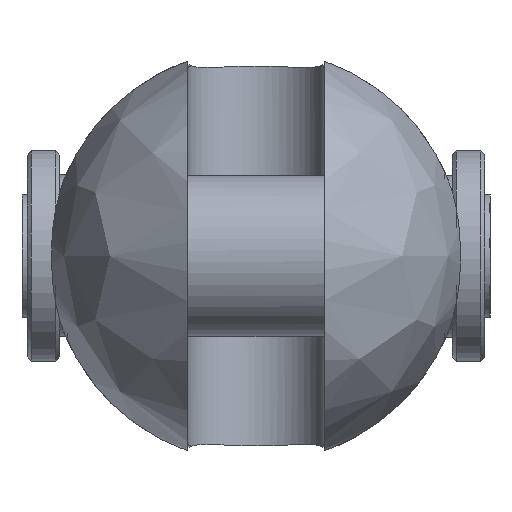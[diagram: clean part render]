
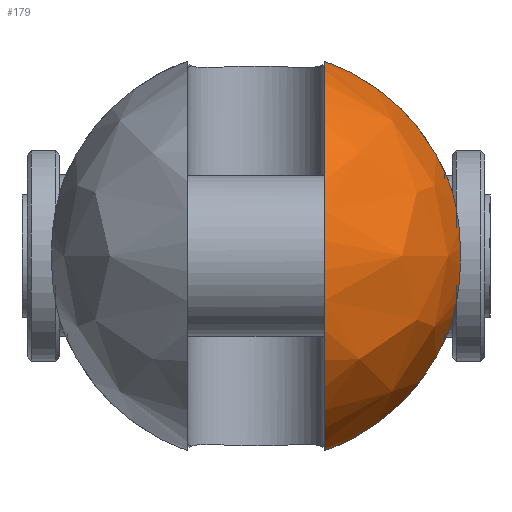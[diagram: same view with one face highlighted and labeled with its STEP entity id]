
A CAD part, left-side view. The second image highlights one B-rep face of the part: STEP entity #179.
In plain terms, the highlighted free-form (B-spline) face has degree [2, 2] with [9, 5] control points.
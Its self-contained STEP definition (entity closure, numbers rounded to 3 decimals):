
#179=ADVANCED_FACE('',(#321),#2442,.T.);
#321=FACE_OUTER_BOUND('',#482,.T.);
#482=EDGE_LOOP('',(#1205,#1206,#1207,#1208));
#1205=ORIENTED_EDGE('',*,*,#1595,.T.);
#1206=ORIENTED_EDGE('',*,*,#1616,.F.);
#1207=ORIENTED_EDGE('',*,*,#1625,.T.);
#1208=ORIENTED_EDGE('',*,*,#1611,.F.);
#1595=EDGE_CURVE('',#2273,#2272,#2004,.T.);
#1611=EDGE_CURVE('',#2273,#2285,#2014,.T.);
#1616=EDGE_CURVE('',#2292,#2272,#2015,.T.);
#1625=EDGE_CURVE('',#2292,#2285,#1801,.T.);
#1801=B_SPLINE_CURVE_WITH_KNOTS('',3,(#6053,#6054,#6055,#6056,#6057,#6058,
#6059,#6060,#6061,#6062,#6063,#6064,#6065,#6066),.UNSPECIFIED.,.F.,.F.,
(4,2,2,2,2,2,4),(0.,2.715,6.504,10.293,14.082,
17.871,20.587),.UNSPECIFIED.);
#2004=(
BOUNDED_CURVE()
B_SPLINE_CURVE(2,(#5937,#5938,#5939,#5940,#5941),.UNSPECIFIED.,.F.,.F.)
B_SPLINE_CURVE_WITH_KNOTS((3,2,3),(-75.529,-37.765,
0.),.UNSPECIFIED.)
CURVE()
GEOMETRIC_REPRESENTATION_ITEM()
RATIONAL_B_SPLINE_CURVE((1.,0.707,1.,0.707,1.))
REPRESENTATION_ITEM('')
);
#2014=(
BOUNDED_CURVE()
B_SPLINE_CURVE(2,(#6015,#6016,#6017),.UNSPECIFIED.,.F.,.F.)
B_SPLINE_CURVE_WITH_KNOTS((3,3),(0.,21.913),.UNSPECIFIED.)
CURVE()
GEOMETRIC_REPRESENTATION_ITEM()
RATIONAL_B_SPLINE_CURVE((1.,0.909,1.))
REPRESENTATION_ITEM('')
);
#2015=(
BOUNDED_CURVE()
B_SPLINE_CURVE(2,(#6026,#6027,#6028),.UNSPECIFIED.,.F.,.F.)
B_SPLINE_CURVE_WITH_KNOTS((3,3),(0.,21.913),.UNSPECIFIED.)
CURVE()
GEOMETRIC_REPRESENTATION_ITEM()
RATIONAL_B_SPLINE_CURVE((1.,0.909,1.))
REPRESENTATION_ITEM('')
);
#2272=VERTEX_POINT('',#5805);
#2273=VERTEX_POINT('',#5806);
#2285=VERTEX_POINT('',#5818);
#2292=VERTEX_POINT('',#5825);
#2442=(
BOUNDED_SURFACE()
B_SPLINE_SURFACE(2,2,((#5519,#5520,#5521,#5522,#5523),(#5524,#5525,#5526,
#5527,#5528),(#5529,#5530,#5531,#5532,#5533),(#5534,#5535,#5536,#5537,#5538),
(#5539,#5540,#5541,#5542,#5543),(#5544,#5545,#5546,#5547,#5548),(#5549,
#5550,#5551,#5552,#5553),(#5554,#5555,#5556,#5557,#5558),(#5559,#5560,#5561,
#5562,#5563)),.UNSPECIFIED.,.T.,.F.,.F.)
B_SPLINE_SURFACE_WITH_KNOTS((3,2,2,2,3),(3,2,3),(0.,40.055,80.111,
120.166,160.221),(0.,40.055,80.111),
 .UNSPECIFIED.)
GEOMETRIC_REPRESENTATION_ITEM()
RATIONAL_B_SPLINE_SURFACE(((1.,0.707,1.,0.707,1.),
(0.707,0.5,0.707,0.5,0.707),(1.,0.707,
1.,0.707,1.),(0.707,0.5,0.707,0.5,0.707),
(1.,0.707,1.,0.707,1.),(0.707,0.5,0.707,
0.5,0.707),(1.,0.707,1.,0.707,1.),(0.707,
0.5,0.707,0.5,0.707),(1.,0.707,1.,0.707,
1.)))
REPRESENTATION_ITEM('')
SURFACE()
);
#5519=CARTESIAN_POINT('',(-36.,0.,0.));
#5520=CARTESIAN_POINT('',(-36.,25.5,0.));
#5521=CARTESIAN_POINT('',(-10.5,25.5,0.));
#5522=CARTESIAN_POINT('',(15.,25.5,0.));
#5523=CARTESIAN_POINT('',(15.,0.,0.));
#5524=CARTESIAN_POINT('',(-36.,0.,0.));
#5525=CARTESIAN_POINT('',(-36.,25.5,25.5));
#5526=CARTESIAN_POINT('',(-10.5,25.5,25.5));
#5527=CARTESIAN_POINT('',(15.,25.5,25.5));
#5528=CARTESIAN_POINT('',(15.,0.,0.));
#5529=CARTESIAN_POINT('',(-36.,0.,0.));
#5530=CARTESIAN_POINT('',(-36.,0.,25.5));
#5531=CARTESIAN_POINT('',(-10.5,0.,25.5));
#5532=CARTESIAN_POINT('',(15.,0.,25.5));
#5533=CARTESIAN_POINT('',(15.,0.,0.));
#5534=CARTESIAN_POINT('',(-36.,0.,0.));
#5535=CARTESIAN_POINT('',(-36.,-25.5,25.5));
#5536=CARTESIAN_POINT('',(-10.5,-25.5,25.5));
#5537=CARTESIAN_POINT('',(15.,-25.5,25.5));
#5538=CARTESIAN_POINT('',(15.,0.,0.));
#5539=CARTESIAN_POINT('',(-36.,0.,0.));
#5540=CARTESIAN_POINT('',(-36.,-25.5,0.));
#5541=CARTESIAN_POINT('',(-10.5,-25.5,0.));
#5542=CARTESIAN_POINT('',(15.,-25.5,0.));
#5543=CARTESIAN_POINT('',(15.,0.,0.));
#5544=CARTESIAN_POINT('',(-36.,0.,0.));
#5545=CARTESIAN_POINT('',(-36.,-25.5,-25.5));
#5546=CARTESIAN_POINT('',(-10.5,-25.5,-25.5));
#5547=CARTESIAN_POINT('',(15.,-25.5,-25.5));
#5548=CARTESIAN_POINT('',(15.,0.,0.));
#5549=CARTESIAN_POINT('',(-36.,0.,0.));
#5550=CARTESIAN_POINT('',(-36.,0.,-25.5));
#5551=CARTESIAN_POINT('',(-10.5,0.,-25.5));
#5552=CARTESIAN_POINT('',(15.,0.,-25.5));
#5553=CARTESIAN_POINT('',(15.,0.,0.));
#5554=CARTESIAN_POINT('',(-36.,0.,0.));
#5555=CARTESIAN_POINT('',(-36.,25.5,-25.5));
#5556=CARTESIAN_POINT('',(-10.5,25.5,-25.5));
#5557=CARTESIAN_POINT('',(15.,25.5,-25.5));
#5558=CARTESIAN_POINT('',(15.,0.,0.));
#5559=CARTESIAN_POINT('',(-36.,0.,0.));
#5560=CARTESIAN_POINT('',(-36.,25.5,0.));
#5561=CARTESIAN_POINT('',(-10.5,25.5,0.));
#5562=CARTESIAN_POINT('',(15.,25.5,0.));
#5563=CARTESIAN_POINT('',(15.,0.,0.));
#5805=CARTESIAN_POINT('',(-10.5,-8.5,-24.042));
#5806=CARTESIAN_POINT('',(-10.5,-8.5,24.042));
#5818=CARTESIAN_POINT('',(-10.5,-23.759,9.26));
#5825=CARTESIAN_POINT('',(-10.5,-23.759,-9.26));
#5937=CARTESIAN_POINT('',(-10.5,-8.5,24.042));
#5938=CARTESIAN_POINT('',(-34.542,-8.5,24.042));
#5939=CARTESIAN_POINT('',(-34.542,-8.5,0.));
#5940=CARTESIAN_POINT('',(-34.542,-8.5,-24.042));
#5941=CARTESIAN_POINT('',(-10.5,-8.5,-24.042));
#6015=CARTESIAN_POINT('',(-10.5,-8.5,24.042));
#6016=CARTESIAN_POINT('',(-10.5,-19.516,20.147));
#6017=CARTESIAN_POINT('',(-10.5,-23.759,9.26));
#6026=CARTESIAN_POINT('',(-10.5,-23.759,-9.26));
#6027=CARTESIAN_POINT('',(-10.5,-19.516,-20.147));
#6028=CARTESIAN_POINT('',(-10.5,-8.5,-24.042));
#6053=CARTESIAN_POINT('',(-10.5,-23.759,-9.26));
#6054=CARTESIAN_POINT('',(-11.084,-24.017,-8.598));
#6055=CARTESIAN_POINT('',(-11.6,-24.241,-7.883));
#6056=CARTESIAN_POINT('',(-12.628,-24.683,-6.156));
#6057=CARTESIAN_POINT('',(-13.15,-24.903,-4.974));
#6058=CARTESIAN_POINT('',(-13.836,-25.191,-2.495));
#6059=CARTESIAN_POINT('',(-14.,-25.259,-1.199));
#6060=CARTESIAN_POINT('',(-14.,-25.259,1.199));
#6061=CARTESIAN_POINT('',(-13.836,-25.191,2.495));
#6062=CARTESIAN_POINT('',(-13.15,-24.903,4.974));
#6063=CARTESIAN_POINT('',(-12.628,-24.683,6.156));
#6064=CARTESIAN_POINT('',(-11.6,-24.241,7.883));
#6065=CARTESIAN_POINT('',(-11.084,-24.017,8.598));
#6066=CARTESIAN_POINT('',(-10.5,-23.759,9.26));
